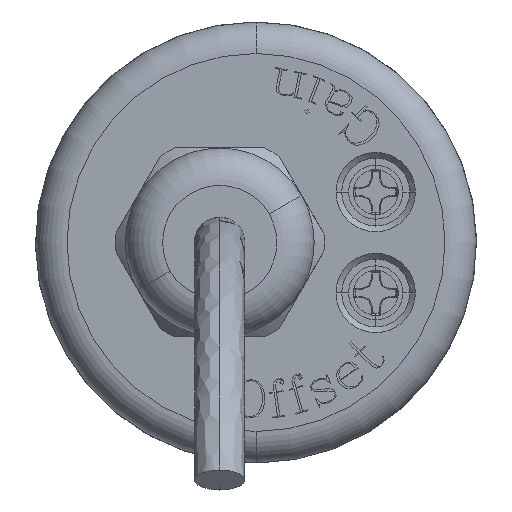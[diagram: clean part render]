
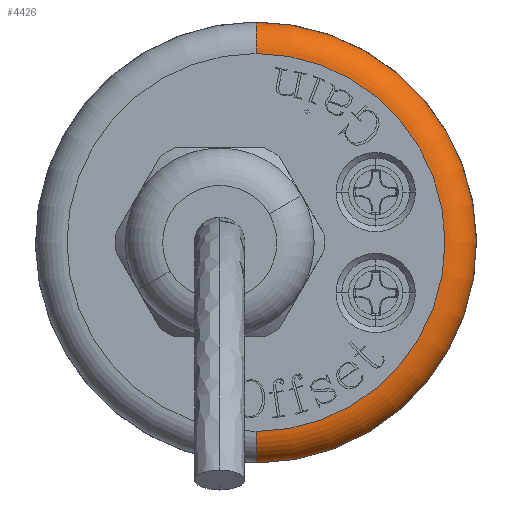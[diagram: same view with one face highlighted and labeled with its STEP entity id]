
A CAD part, left-side view. The second image highlights one B-rep face of the part: STEP entity #4426.
In plain terms, the highlighted toroidal (fillet/blend) face has major radius 15 mm and minor radius 2.5 mm.
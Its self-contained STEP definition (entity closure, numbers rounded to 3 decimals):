
#315 = CARTESIAN_POINT ( 'NONE',  ( -43.75, 0., -15. ) ) ;
#489 = ORIENTED_EDGE ( 'NONE', *, *, #8689, .T. ) ;
#849 = EDGE_LOOP ( 'NONE', ( #8855, #7894, #7142, #489 ) ) ;
#966 = VERTEX_POINT ( 'NONE', #5277 ) ;
#1909 = CARTESIAN_POINT ( 'NONE',  ( -41.25, 0., 15. ) ) ;
#2087 = DIRECTION ( 'NONE',  ( 0., 0., 1. ) ) ;
#2238 = CARTESIAN_POINT ( 'NONE',  ( -41.25, 0., -17.5 ) ) ;
#2768 = DIRECTION ( 'NONE',  ( -1., 0., 0. ) ) ;
#3127 = EDGE_CURVE ( 'NONE', #9759, #966, #5814, .T. ) ;
#3524 = CIRCLE ( 'NONE', #11206, 2.5 ) ;
#3559 = CIRCLE ( 'NONE', #5095, 2.5 ) ;
#3730 = EDGE_CURVE ( 'NONE', #966, #9040, #3524, .T. ) ;
#3863 = DIRECTION ( 'NONE',  ( -1., 0., 0. ) ) ;
#4426 = ADVANCED_FACE ( 'NONE', ( #7230 ), #4469, .T. ) ;
#4469 = TOROIDAL_SURFACE ( 'NONE', #6021, 15., 2.5 ) ;
#4693 = DIRECTION ( 'NONE',  ( 0., -1., 0. ) ) ;
#5095 = AXIS2_PLACEMENT_3D ( 'NONE', #6616, #4693, #6448 ) ;
#5277 = CARTESIAN_POINT ( 'NONE',  ( -43.75, 0., 15. ) ) ;
#5814 = CIRCLE ( 'NONE', #10827, 15. ) ;
#6021 = AXIS2_PLACEMENT_3D ( 'NONE', #7893, #6209, #7046 ) ;
#6209 = DIRECTION ( 'NONE',  ( 1., 0., 0. ) ) ;
#6416 = DIRECTION ( 'NONE',  ( 0., 1., 0. ) ) ;
#6448 = DIRECTION ( 'NONE',  ( 0., 0., -1. ) ) ;
#6616 = CARTESIAN_POINT ( 'NONE',  ( -41.25, 0., -15. ) ) ;
#6627 = VERTEX_POINT ( 'NONE', #2238 ) ;
#7046 = DIRECTION ( 'NONE',  ( 0., 0., -1. ) ) ;
#7142 = ORIENTED_EDGE ( 'NONE', *, *, #7451, .T. ) ;
#7185 = CARTESIAN_POINT ( 'NONE',  ( -41.25, 0., 0. ) ) ;
#7230 = FACE_OUTER_BOUND ( 'NONE', #849, .T. ) ;
#7430 = AXIS2_PLACEMENT_3D ( 'NONE', #7185, #3863, #8220 ) ;
#7451 = EDGE_CURVE ( 'NONE', #9759, #6627, #3559, .T. ) ;
#7893 = CARTESIAN_POINT ( 'NONE',  ( -41.25, 0., 0. ) ) ;
#7894 = ORIENTED_EDGE ( 'NONE', *, *, #3127, .F. ) ;
#8220 = DIRECTION ( 'NONE',  ( 0., 0., 1. ) ) ;
#8689 = EDGE_CURVE ( 'NONE', #6627, #9040, #10895, .T. ) ;
#8855 = ORIENTED_EDGE ( 'NONE', *, *, #3730, .F. ) ;
#9040 = VERTEX_POINT ( 'NONE', #11722 ) ;
#9205 = DIRECTION ( 'NONE',  ( 0., 0., -1. ) ) ;
#9759 = VERTEX_POINT ( 'NONE', #315 ) ;
#10827 = AXIS2_PLACEMENT_3D ( 'NONE', #11013, #2768, #9205 ) ;
#10895 = CIRCLE ( 'NONE', #7430, 17.5 ) ;
#11013 = CARTESIAN_POINT ( 'NONE',  ( -43.75, 0., 0. ) ) ;
#11206 = AXIS2_PLACEMENT_3D ( 'NONE', #1909, #6416, #2087 ) ;
#11722 = CARTESIAN_POINT ( 'NONE',  ( -41.25, 0., 17.5 ) ) ;
